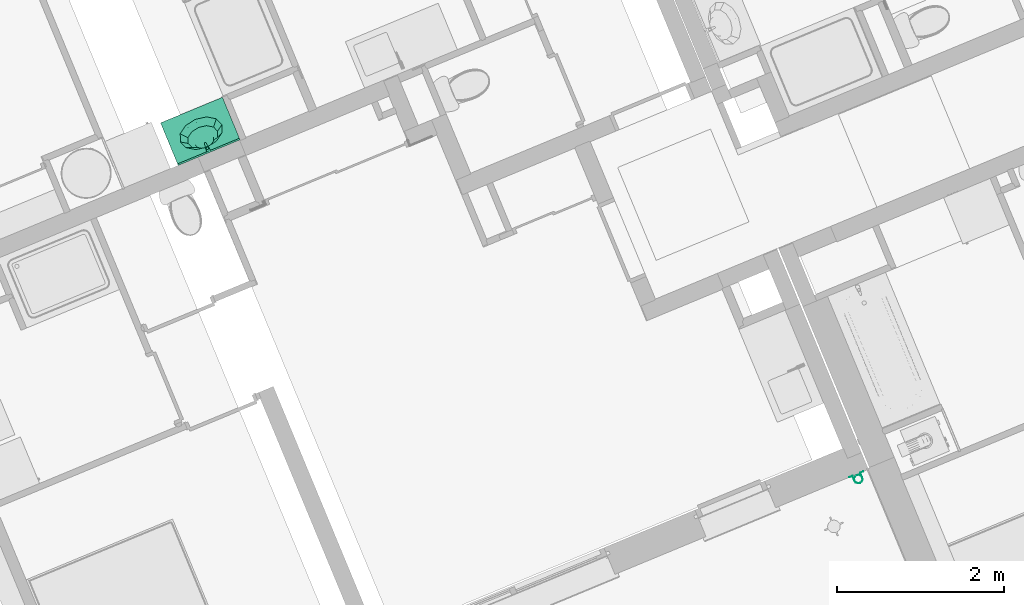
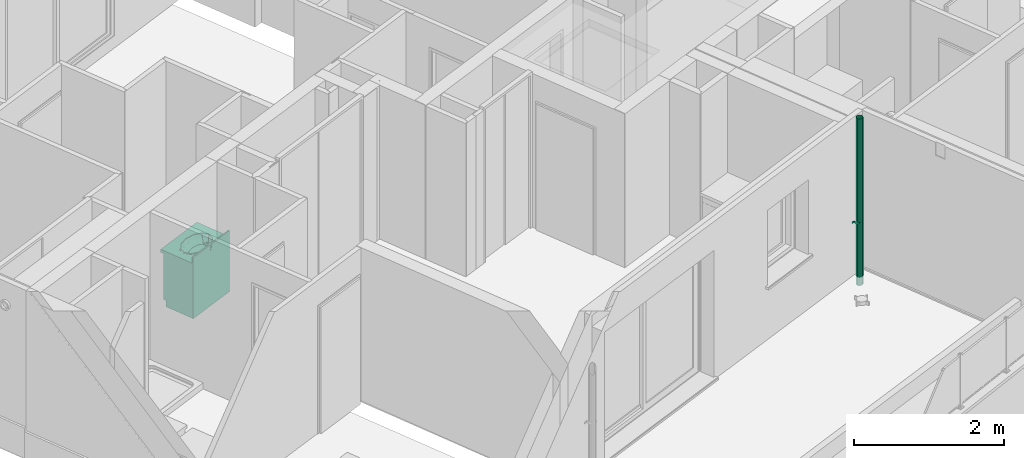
# One storey, part 83 of 119: 2 flow terminals.
"""IFC2X3 building model written with IfcOpenShell, lengths in metres."""

from ifc_helpers import new_model, entity, si_unit, converted_unit, derived_unit, money_unit, direction, frame, origin_with_axes, place, context, subcontext, project, spatial, open_shell, faceted_brep, surface_model, source, transform, mapped, type_object, element, save


model = new_model("IFC2X3")

# Units and contexts
model_context = context("Model", 3, precision=1e-05, world=origin_with_axes(), true_north=direction((0.0, 1.0)))
body_context = subcontext(model_context, "Body", "Model", "MODEL_VIEW")
ifc_project = project(units=[si_unit("LENGTHUNIT", "METRE"), si_unit("AREAUNIT", "SQUARE_METRE"), si_unit("VOLUMEUNIT", "CUBIC_METRE"), converted_unit("PLANEANGLEUNIT", "DEGREE", entity("IfcPlaneAngleMeasure", 0.0174532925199), si_unit("PLANEANGLEUNIT", "RADIAN"), dimensions=[0, 0, 0, 0, 0, 0, 0]), si_unit("SOLIDANGLEUNIT", "STERADIAN"), money_unit("EUR"), converted_unit("TIMEUNIT", "Year", entity("IfcTimeMeasure", 31556926.0), si_unit("TIMEUNIT", "SECOND"), dimensions=[0, 0, 1, 0, 0, 0, 0]), si_unit("MASSUNIT", "GRAM", prefix="KILO"), si_unit("THERMODYNAMICTEMPERATUREUNIT", "DEGREE_CELSIUS"), si_unit("LUMINOUSINTENSITYUNIT", "LUMEN"), si_unit("ENERGYUNIT", "JOULE", prefix="MEGA"), derived_unit("THERMALCONDUCTANCEUNIT", [(si_unit("POWERUNIT", "WATT"), 1), (si_unit("LENGTHUNIT", "METRE"), -1), (si_unit("THERMODYNAMICTEMPERATUREUNIT", "KELVIN"), -1)]), derived_unit("SPECIFICHEATCAPACITYUNIT", [(si_unit("ENERGYUNIT", "JOULE"), 1), (si_unit("MASSUNIT", "GRAM", prefix="KILO"), -1), (si_unit("THERMODYNAMICTEMPERATUREUNIT", "KELVIN"), -1)]), derived_unit("MASSDENSITYUNIT", [(si_unit("MASSUNIT", "GRAM", prefix="KILO"), 1), (si_unit("VOLUMEUNIT", "CUBIC_METRE"), -1)])], contexts=[model_context])

# Site, building, storey
site_placement = place(None, origin_with_axes())
site = spatial("IfcSite", under=ifc_project, at=site_placement, Name="Site", CompositionType="ELEMENT")
building_placement = place(site_placement, origin_with_axes())
building = spatial("IfcBuilding", under=site, at=building_placement, Name="Bâtiment", CompositionType="ELEMENT")
storey_placement = place(building_placement, origin_with_axes())
storey = spatial("IfcBuildingStorey", under=building, at=storey_placement, Name="Rez-de-chaussée", CompositionType="ELEMENT", Elevation=0.0)

# Flow terminals
sanitary_terminal_type = type_object("IfcSanitaryTerminalType", Name="Lavabo sur meuble 23", PredefinedType="NOTDEFINED")
shared_shape_1 = source(origin_with_axes(), body_context, "Body", "SurfaceModel", [
    faceted_brep([(0.0, 0.09, 0.0), (0.8, 0.09, 0.0), (0.8, 0.09, 0.1), (0.0, 0.09, 0.1), (0.0, 0.55, 0.0), (0.8, 0.55, 0.0), (0.8, 0.55, 0.1), (0.0, 0.55, 0.1)], [[[0, 1, 2, 3]], [[0, 4, 5, 1]], [[1, 5, 6, 2]], [[3, 2, 6, 7]], [[4, 0, 3, 7]], [[5, 4, 7, 6]]]),
    faceted_brep([(0.0, 0.07, 0.1), (0.02, 0.07, 0.1), (0.02, 0.07, 0.12), (0.0, 0.07, 0.12), (0.0, 0.55, 0.1), (0.02, 0.55, 0.1), (0.78, 0.55, 0.1), (0.8, 0.55, 0.1), (0.8, 0.07, 0.1), (0.78, 0.07, 0.1), (0.78, 0.07, 0.12), (0.8, 0.07, 0.12), (0.8, 0.55, 0.12), (0.78, 0.55, 0.12), (0.02, 0.55, 0.12), (0.0, 0.55, 0.12)], [[[0, 1, 2, 3]], [[0, 4, 5, 6, 7, 8, 9, 1]], [[1, 9, 10, 2]], [[3, 2, 10, 11, 12, 13, 14, 15]], [[4, 0, 3, 15]], [[5, 4, 15, 14]], [[6, 5, 14, 13]], [[7, 6, 13, 12]], [[8, 7, 12, 11]], [[9, 8, 11, 10]]]),
    faceted_brep([(0.0, 0.07, 0.12), (0.02, 0.07, 0.12), (0.02, 0.07, 0.85), (0.0, 0.07, 0.85), (0.0, 0.55, 0.12), (0.8, 0.55, 0.12), (0.8, 0.07, 0.12), (0.78, 0.07, 0.12), (0.78, 0.53, 0.12), (0.02, 0.53, 0.12), (0.02, 0.53, 0.85), (0.78, 0.53, 0.85), (0.78, 0.07, 0.85), (0.8, 0.07, 0.85), (0.8, 0.55, 0.85), (0.0, 0.55, 0.85)], [[[0, 1, 2, 3]], [[0, 4, 5, 6, 7, 8, 9, 1]], [[1, 9, 10, 2]], [[3, 2, 10, 11, 12, 13, 14, 15]], [[4, 0, 3, 15]], [[5, 4, 15, 14]], [[6, 5, 14, 13]], [[7, 6, 13, 12]], [[8, 7, 12, 11]], [[9, 8, 11, 10]]]),
    faceted_brep([(0.78, 0.07, 0.323333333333), (0.78, 0.53, 0.323333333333), (0.78, 0.53, 0.343333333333), (0.78, 0.07, 0.343333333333), (0.02, 0.07, 0.323333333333), (0.02, 0.53, 0.323333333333), (0.02, 0.53, 0.343333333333), (0.02, 0.07, 0.343333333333)], [[[0, 1, 2, 3]], [[0, 4, 5, 1]], [[1, 5, 6, 2]], [[3, 2, 6, 7]], [[4, 0, 3, 7]], [[5, 4, 7, 6]]]),
    faceted_brep([(0.78, 0.07, 0.566666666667), (0.78, 0.53, 0.566666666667), (0.78, 0.53, 0.586666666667), (0.78, 0.07, 0.586666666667), (0.02, 0.07, 0.566666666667), (0.02, 0.53, 0.566666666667), (0.02, 0.53, 0.586666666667), (0.02, 0.07, 0.586666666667)], [[[0, 1, 2, 3]], [[0, 4, 5, 1]], [[1, 5, 6, 2]], [[3, 2, 6, 7]], [[4, 0, 3, 7]], [[5, 4, 7, 6]]]),
    faceted_brep([(0.0, 0.55, 0.85), (0.8, 0.55, 0.85), (0.8, 0.0, 0.85), (0.0, 0.0, 0.85), (0.535, 0.144115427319, 0.85), (0.633826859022, 0.21, 0.85), (0.67, 0.3, 0.85), (0.633826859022, 0.39, 0.85), (0.535, 0.455884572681, 0.85), (0.4, 0.48, 0.85), (0.265, 0.455884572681, 0.85), (0.166173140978, 0.39, 0.85), (0.13, 0.3, 0.85), (0.166173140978, 0.21, 0.85), (0.265, 0.144115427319, 0.85), (0.4, 0.12, 0.85), (0.0, 0.55, 0.9), (0.8, 0.55, 0.9), (0.8, 0.0, 0.9), (0.0, 0.0, 0.9), (0.535, 0.144115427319, 0.9), (0.633826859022, 0.21, 0.9), (0.67, 0.3, 0.9), (0.633826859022, 0.39, 0.9), (0.535, 0.455884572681, 0.9), (0.4, 0.48, 0.9), (0.265, 0.455884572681, 0.9), (0.166173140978, 0.39, 0.9), (0.13, 0.3, 0.9), (0.166173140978, 0.21, 0.9), (0.265, 0.144115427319, 0.9), (0.4, 0.12, 0.9)], [[[0, 1, 2, 3], [4, 5, 6, 7, 8, 9, 10, 11, 12, 13, 14, 15]], [[0, 16, 17, 1]], [[1, 17, 18, 2]], [[2, 18, 19, 3]], [[3, 19, 16, 0]], [[20, 21, 5, 4]], [[21, 22, 6, 5]], [[22, 23, 7, 6]], [[23, 24, 8, 7]], [[24, 25, 9, 8]], [[25, 26, 10, 9]], [[26, 27, 11, 10]], [[27, 28, 12, 11]], [[28, 29, 13, 12]], [[29, 30, 14, 13]], [[30, 31, 15, 14]], [[31, 20, 4, 15]], [[18, 17, 16, 19], [24, 23, 22, 21, 20, 31, 30, 29, 28, 27, 26, 25]]]),
    faceted_brep([(0.0, 0.53, 0.9), (0.8, 0.53, 0.9), (0.8, 0.53, 1.0), (0.0, 0.53, 1.0), (0.0, 0.55, 0.9), (0.8, 0.55, 0.9), (0.8, 0.55, 1.0), (0.0, 0.55, 1.0)], [[[0, 1, 2, 3]], [[0, 4, 5, 1]], [[1, 5, 6, 2]], [[3, 2, 6, 7]], [[4, 0, 3, 7]], [[5, 4, 7, 6]]]),
    faceted_brep([(0.689, 0.3, 0.905), (0.689, 0.3, 0.9), (0.650281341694, 0.396691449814, 0.9), (0.650281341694, 0.396691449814, 0.905), (0.650281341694, 0.203308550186, 0.905), (0.650281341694, 0.203308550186, 0.9), (0.5445, 0.132525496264, 0.9), (0.4, 0.106617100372, 0.9), (0.2555, 0.132525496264, 0.9), (0.149718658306, 0.203308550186, 0.9), (0.111, 0.3, 0.9), (0.149718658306, 0.396691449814, 0.9), (0.2555, 0.467474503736, 0.9), (0.4, 0.493382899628, 0.9), (0.5445, 0.467474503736, 0.9), (0.669, 0.3, 0.9), (0.632960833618, 0.39, 0.9), (0.5345, 0.455884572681, 0.9), (0.4, 0.48, 0.9), (0.2655, 0.455884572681, 0.9), (0.167039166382, 0.39, 0.9), (0.131, 0.3, 0.9), (0.167039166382, 0.21, 0.9), (0.2655, 0.144115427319, 0.9), (0.4, 0.12, 0.9), (0.5345, 0.144115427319, 0.9), (0.632960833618, 0.21, 0.9), (0.5445, 0.467474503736, 0.905), (0.4, 0.493382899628, 0.905), (0.2555, 0.467474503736, 0.905), (0.149718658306, 0.396691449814, 0.905), (0.111, 0.3, 0.905), (0.149718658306, 0.203308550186, 0.905), (0.2555, 0.132525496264, 0.905), (0.4, 0.106617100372, 0.905), (0.5445, 0.132525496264, 0.905), (0.669, 0.3, 0.905), (0.632960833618, 0.21, 0.905), (0.5345, 0.144115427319, 0.905), (0.4, 0.12, 0.905), (0.2655, 0.144115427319, 0.905), (0.167039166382, 0.21, 0.905), (0.131, 0.3, 0.905), (0.167039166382, 0.39, 0.905), (0.2655, 0.455884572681, 0.905), (0.4, 0.48, 0.905), (0.5345, 0.455884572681, 0.905), (0.632960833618, 0.39, 0.905)], [[[0, 1, 2, 3]], [[4, 5, 1, 0]], [[1, 5, 6, 7, 8, 9, 10, 11, 12, 13, 14, 2], [15, 16, 17, 18, 19, 20, 21, 22, 23, 24, 25, 26]], [[3, 2, 14, 27]], [[0, 3, 27, 28, 29, 30, 31, 32, 33, 34, 35, 4], [36, 37, 38, 39, 40, 41, 42, 43, 44, 45, 46, 47]], [[35, 6, 5, 4]], [[34, 7, 6, 35]], [[33, 8, 7, 34]], [[32, 9, 8, 33]], [[31, 10, 9, 32]], [[30, 11, 10, 31]], [[29, 12, 11, 30]], [[28, 13, 12, 29]], [[27, 14, 13, 28]], [[47, 16, 15, 36]], [[46, 17, 16, 47]], [[45, 18, 17, 46]], [[44, 19, 18, 45]], [[43, 20, 19, 44]], [[42, 21, 20, 43]], [[41, 22, 21, 42]], [[40, 23, 22, 41]], [[39, 24, 23, 40]], [[38, 25, 24, 39]], [[37, 26, 25, 38]], [[36, 15, 26, 37]]]),
    surface_model("IfcShellBasedSurfaceModel", [(0.4, 0.48, 0.9), (0.4, 0.48, 0.848), (0.52105, 0.458296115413, 0.848), (0.5345, 0.455884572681, 0.9), (0.2655, 0.455884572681, 0.9), (0.27895, 0.458296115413, 0.848), (0.609664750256, 0.399, 0.848), (0.632960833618, 0.39, 0.9), (0.167039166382, 0.39, 0.9), (0.190335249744, 0.399, 0.848), (0.6421, 0.318, 0.848), (0.669, 0.3, 0.9), (0.131, 0.3, 0.9), (0.1579, 0.318, 0.848), (0.609664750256, 0.237, 0.848), (0.632960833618, 0.21, 0.9), (0.167039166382, 0.21, 0.9), (0.190335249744, 0.237, 0.848), (0.52105, 0.177703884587, 0.848), (0.5345, 0.144115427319, 0.9), (0.2655, 0.144115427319, 0.9), (0.27895, 0.177703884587, 0.848), (0.4, 0.156, 0.848), (0.4, 0.12, 0.9)], [open_shell([[[0, 1, 2, 3]], [[4, 5, 1, 0]], [[3, 2, 6, 7]], [[8, 9, 5, 4]], [[7, 6, 10, 11]], [[12, 13, 9, 8]], [[11, 10, 14, 15]], [[16, 17, 13, 12]], [[15, 14, 18, 19]], [[20, 21, 17, 16]], [[19, 18, 22, 23]], [[23, 22, 21, 20]]])]),
    surface_model("IfcShellBasedSurfaceModel", [(0.4, 0.48, 0.848), (0.4, 0.48, 0.796), (0.4956295, 0.462853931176, 0.796), (0.52105, 0.458296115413, 0.848), (0.27895, 0.458296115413, 0.848), (0.3043705, 0.462853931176, 0.796), (0.565635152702, 0.41601, 0.796), (0.609664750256, 0.399, 0.848), (0.190335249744, 0.399, 0.848), (0.234364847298, 0.41601, 0.796), (0.591259, 0.35202, 0.796), (0.6421, 0.318, 0.848), (0.1579, 0.318, 0.848), (0.208741, 0.35202, 0.796), (0.565635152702, 0.28803, 0.796), (0.609664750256, 0.237, 0.848), (0.190335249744, 0.237, 0.848), (0.234364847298, 0.28803, 0.796), (0.4956295, 0.241186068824, 0.796), (0.52105, 0.177703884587, 0.848), (0.27895, 0.177703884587, 0.848), (0.3043705, 0.241186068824, 0.796), (0.4, 0.22404, 0.796), (0.4, 0.156, 0.848)], [open_shell([[[0, 1, 2, 3]], [[4, 5, 1, 0]], [[3, 2, 6, 7]], [[8, 9, 5, 4]], [[7, 6, 10, 11]], [[12, 13, 9, 8]], [[11, 10, 14, 15]], [[16, 17, 13, 12]], [[15, 14, 18, 19]], [[20, 21, 17, 16]], [[19, 18, 22, 23]], [[23, 22, 21, 20]]])]),
    surface_model("IfcShellBasedSurfaceModel", [(0.4, 0.48, 0.796), (0.4, 0.48, 0.77), (0.460246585, 0.469197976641, 0.77), (0.4956295, 0.462853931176, 0.796), (0.3043705, 0.462853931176, 0.796), (0.339753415, 0.469197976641, 0.77), (0.504350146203, 0.4396863, 0.77), (0.565635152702, 0.41601, 0.796), (0.234364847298, 0.41601, 0.796), (0.295649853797, 0.4396863, 0.77), (0.52049317, 0.3993726, 0.77), (0.591259, 0.35202, 0.796), (0.208741, 0.35202, 0.796), (0.27950683, 0.3993726, 0.77), (0.504350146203, 0.3590589, 0.77), (0.565635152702, 0.28803, 0.796), (0.234364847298, 0.28803, 0.796), (0.295649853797, 0.3590589, 0.77), (0.460246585, 0.329547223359, 0.77), (0.4956295, 0.241186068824, 0.796), (0.3043705, 0.241186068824, 0.796), (0.339753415, 0.329547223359, 0.77), (0.4, 0.3187452, 0.77), (0.4, 0.22404, 0.796)], [open_shell([[[0, 1, 2, 3]], [[4, 5, 1, 0]], [[3, 2, 6, 7]], [[8, 9, 5, 4]], [[7, 6, 10, 11]], [[12, 13, 9, 8]], [[11, 10, 14, 15]], [[16, 17, 13, 12]], [[15, 14, 18, 19]], [[20, 21, 17, 16]], [[19, 18, 22, 23]], [[23, 22, 21, 20]]])]),
    surface_model("IfcShellBasedSurfaceModel", [(0.4, 0.48, 0.77), (0.415, 0.425353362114, 0.763), (0.460246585, 0.469197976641, 0.77), (0.4, 0.4293726, 0.763), (0.425980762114, 0.4143726, 0.763), (0.339753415, 0.469197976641, 0.77), (0.504350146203, 0.4396863, 0.77), (0.385, 0.425353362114, 0.763), (0.43, 0.3993726, 0.763), (0.295649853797, 0.4396863, 0.77), (0.52049317, 0.3993726, 0.77), (0.374019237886, 0.4143726, 0.763), (0.425980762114, 0.3843726, 0.763), (0.27950683, 0.3993726, 0.77), (0.504350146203, 0.3590589, 0.77), (0.37, 0.3993726, 0.763), (0.415, 0.373391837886, 0.763), (0.295649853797, 0.3590589, 0.77), (0.460246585, 0.329547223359, 0.77), (0.374019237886, 0.3843726, 0.763), (0.4, 0.3693726, 0.763), (0.339753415, 0.329547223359, 0.77), (0.4, 0.3187452, 0.77), (0.385, 0.373391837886, 0.763)], [open_shell([[[0, 1, 2]], [[0, 3, 1]], [[2, 1, 4]], [[5, 3, 0]], [[2, 4, 6]], [[5, 7, 3]], [[6, 4, 8]], [[9, 7, 5]], [[6, 8, 10]], [[9, 11, 7]], [[10, 8, 12]], [[13, 11, 9]], [[10, 12, 14]], [[13, 15, 11]], [[14, 12, 16]], [[17, 15, 13]], [[14, 16, 18]], [[17, 19, 15]], [[18, 16, 20]], [[21, 19, 17]], [[18, 20, 22]], [[21, 23, 19]], [[22, 20, 23]], [[22, 23, 21]]])]),
    surface_model("IfcShellBasedSurfaceModel", [(0.43, 0.3993726, 0.763), (0.43, 0.3993726, 0.758), (0.425980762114, 0.4143726, 0.758), (0.425980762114, 0.4143726, 0.763), (0.425980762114, 0.3843726, 0.763), (0.425980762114, 0.3843726, 0.758), (0.415, 0.373391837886, 0.758), (0.4, 0.3693726, 0.758), (0.385, 0.373391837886, 0.758), (0.374019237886, 0.3843726, 0.758), (0.37, 0.3993726, 0.758), (0.374019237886, 0.4143726, 0.758), (0.385, 0.425353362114, 0.758), (0.4, 0.4293726, 0.758), (0.415, 0.425353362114, 0.758), (0.415, 0.425353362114, 0.763), (0.415, 0.373391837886, 0.763), (0.4, 0.3693726, 0.763), (0.385, 0.373391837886, 0.763), (0.374019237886, 0.3843726, 0.763), (0.37, 0.3993726, 0.763), (0.374019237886, 0.4143726, 0.763), (0.385, 0.425353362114, 0.763), (0.4, 0.4293726, 0.763)], [open_shell([[[0, 1, 2, 3]], [[4, 5, 1, 0]], [[1, 5, 6, 7, 8, 9, 10, 11, 12, 13, 14, 2]], [[3, 2, 14, 15]], [[16, 6, 5, 4]], [[17, 7, 6, 16]], [[18, 8, 7, 17]], [[19, 9, 8, 18]], [[20, 10, 9, 19]], [[21, 11, 10, 20]], [[22, 12, 11, 21]], [[23, 13, 12, 22]], [[15, 14, 13, 23]]])]),
    faceted_brep([(0.4125, 0.554150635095, 0.9), (0.4, 0.5575, 0.9), (0.4, 0.553701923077, 0.975961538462), (0.410587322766, 0.550837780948, 0.976507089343), (0.421650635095, 0.545, 0.9), (0.425, 0.5325, 0.9), (0.421650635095, 0.52, 0.9), (0.4125, 0.510849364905, 0.9), (0.4, 0.5075, 0.9), (0.3875, 0.510849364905, 0.9), (0.378349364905, 0.52, 0.9), (0.375, 0.5325, 0.9), (0.378349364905, 0.545, 0.9), (0.3875, 0.554150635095, 0.9), (0.389412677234, 0.550837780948, 0.976507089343), (0.381726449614, 0.543050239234, 0.977990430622), (0.379, 0.5325, 0.98), (0.381899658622, 0.522049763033, 0.981990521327), (0.389585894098, 0.514462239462, 0.983435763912), (0.4, 0.511698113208, 0.983962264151), (0.410414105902, 0.514462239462, 0.983435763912), (0.418100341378, 0.522049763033, 0.981990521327), (0.421, 0.5325, 0.98), (0.418273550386, 0.543050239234, 0.977990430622)], [[[0, 1, 2, 3]], [[0, 4, 5, 6, 7, 8, 9, 10, 11, 12, 13, 1]], [[1, 13, 14, 2]], [[3, 2, 14, 15, 16, 17, 18, 19, 20, 21, 22, 23]], [[4, 0, 3, 23]], [[5, 4, 23, 22]], [[6, 5, 22, 21]], [[7, 6, 21, 20]], [[8, 7, 20, 19]], [[9, 8, 19, 18]], [[10, 9, 18, 17]], [[11, 10, 17, 16]], [[12, 11, 16, 15]], [[13, 12, 15, 14]]]),
    faceted_brep([(0.409, 0.4295, 0.935), (0.407794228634, 0.434, 0.935), (0.407794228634, 0.434, 0.945), (0.409, 0.4295, 0.945), (0.407794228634, 0.425, 0.935), (0.4045, 0.421705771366, 0.935), (0.4, 0.4205, 0.935), (0.3955, 0.421705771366, 0.935), (0.392205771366, 0.425, 0.935), (0.391, 0.4295, 0.935), (0.392205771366, 0.434, 0.935), (0.3955, 0.437294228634, 0.935), (0.4, 0.4385, 0.935), (0.4045, 0.437294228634, 0.935), (0.4045, 0.437294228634, 0.945), (0.4, 0.4385, 0.945), (0.3955, 0.437294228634, 0.945), (0.392205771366, 0.434, 0.945), (0.391, 0.4295, 0.945), (0.392205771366, 0.425, 0.945), (0.3955, 0.421705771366, 0.945), (0.4, 0.4205, 0.945), (0.4045, 0.421705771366, 0.945), (0.407794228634, 0.425, 0.945)], [[[0, 1, 2, 3]], [[0, 4, 5, 6, 7, 8, 9, 10, 11, 12, 13, 1]], [[1, 13, 14, 2]], [[3, 2, 14, 15, 16, 17, 18, 19, 20, 21, 22, 23]], [[4, 0, 3, 23]], [[5, 4, 23, 22]], [[6, 5, 22, 21]], [[7, 6, 21, 20]], [[8, 7, 20, 19]], [[9, 8, 19, 18]], [[10, 9, 18, 17]], [[11, 10, 17, 16]], [[12, 11, 16, 15]], [[13, 12, 15, 14]]]),
    faceted_brep([(0.387128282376, 0.552756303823, 0.96), (0.378272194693, 0.54269320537, 0.96), (0.3761946, 0.5294501, 0.96), (0.389088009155, 0.428111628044, 0.96), (0.390971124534, 0.423216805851, 0.96), (0.394906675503, 0.419750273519, 0.96), (0.400000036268, 0.41850003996, 0.96), (0.405093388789, 0.419750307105, 0.96), (0.409028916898, 0.423216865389, 0.96), (0.410912, 0.4281117, 0.96), (0.423805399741, 0.529450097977, 0.96), (0.421727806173, 0.542693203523, 0.96), (0.412871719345, 0.552756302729, 0.96), (0.40000000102, 0.556499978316, 0.96), (0.411, 0.551552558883, 0.96), (0.419052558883, 0.5435, 0.96), (0.422, 0.5325, 0.96), (0.419052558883, 0.5215, 0.96), (0.411, 0.513447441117, 0.96), (0.4, 0.5105, 0.96), (0.389, 0.513447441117, 0.96), (0.380947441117, 0.5215, 0.96), (0.378, 0.5325, 0.96), (0.380947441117, 0.5435, 0.96), (0.389, 0.551552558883, 0.96), (0.4, 0.5545, 0.96), (0.378272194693, 0.54269320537, 0.945), (0.387128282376, 0.552756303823, 0.945), (0.3761946, 0.5294501, 0.945), (0.389088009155, 0.428111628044, 0.945), (0.390971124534, 0.423216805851, 0.945), (0.394906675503, 0.419750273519, 0.945), (0.400000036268, 0.41850003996, 0.945), (0.405093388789, 0.419750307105, 0.945), (0.409028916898, 0.423216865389, 0.945), (0.410912, 0.4281117, 0.945), (0.423805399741, 0.529450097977, 0.945), (0.421727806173, 0.542693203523, 0.945), (0.412871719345, 0.552756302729, 0.945), (0.40000000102, 0.556499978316, 0.945), (0.411375, 0.552202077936, 0.945), (0.419702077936, 0.543875, 0.945), (0.42275, 0.5325, 0.945), (0.419702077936, 0.521125, 0.945), (0.411375, 0.512797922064, 0.945), (0.4, 0.50975, 0.945), (0.388625, 0.512797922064, 0.945), (0.380297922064, 0.521125, 0.945), (0.37725, 0.5325, 0.945), (0.380297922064, 0.543875, 0.945), (0.388625, 0.552202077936, 0.945), (0.4, 0.55525, 0.945)], [[[0, 1, 2, 3, 4, 5, 6, 7, 8, 9, 10, 11, 12, 13], [14, 15, 16, 17, 18, 19, 20, 21, 22, 23, 24, 25]], [[26, 1, 0, 27]], [[28, 2, 1, 26]], [[29, 3, 2, 28]], [[30, 4, 3, 29]], [[31, 5, 4, 30]], [[32, 6, 5, 31]], [[33, 7, 6, 32]], [[34, 8, 7, 33]], [[35, 9, 8, 34]], [[36, 10, 9, 35]], [[37, 11, 10, 36]], [[38, 12, 11, 37]], [[39, 13, 12, 38]], [[27, 0, 13, 39]], [[40, 41, 15, 14]], [[41, 42, 16, 15]], [[42, 43, 17, 16]], [[43, 44, 18, 17]], [[44, 45, 19, 18]], [[20, 19, 45, 46]], [[21, 20, 46, 47]], [[22, 21, 47, 48]], [[23, 22, 48, 49]], [[24, 23, 49, 50]], [[50, 51, 25, 24]], [[51, 40, 14, 25]], [[32, 31, 30, 29, 28, 26, 27, 39, 38, 37, 36, 35, 34, 33], [44, 43, 42, 41, 40, 51, 50, 49, 48, 47, 46, 45]]]),
    faceted_brep([(0.423893, 0.53080743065, 0.980322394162), (0.421296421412, 0.543274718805, 0.977947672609), (0.421296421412, 0.544023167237, 0.981877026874), (0.423893, 0.531555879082, 0.984251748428), (0.420945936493, 0.490663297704, 0.987968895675), (0.417663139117, 0.480985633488, 0.989812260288), (0.410061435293, 0.474036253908, 0.991135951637), (0.399999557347, 0.47151438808, 0.991616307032), (0.389937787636, 0.474036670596, 0.991135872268), (0.382336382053, 0.480986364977, 0.989812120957), (0.379054, 0.490664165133, 0.987968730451), (0.376106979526, 0.530807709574, 0.980322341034), (0.378703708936, 0.543274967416, 0.977947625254), (0.38752831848, 0.552591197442, 0.976173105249), (0.400000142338, 0.556031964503, 0.975517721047), (0.41247192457, 0.552591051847, 0.976173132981), (0.414, 0.506959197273, 0.984864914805), (0.386, 0.506959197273, 0.984864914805), (0.386, 0.492143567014, 0.987686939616), (0.387875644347, 0.485267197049, 0.988996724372), (0.393, 0.480233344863, 0.989955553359), (0.4, 0.478390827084, 0.990306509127), (0.407, 0.480233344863, 0.989955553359), (0.412124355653, 0.485267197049, 0.988996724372), (0.414, 0.492143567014, 0.987686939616), (0.41247192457, 0.553339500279, 0.980102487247), (0.400000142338, 0.556780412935, 0.979447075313), (0.38752831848, 0.553339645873, 0.980102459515), (0.378703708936, 0.544023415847, 0.98187697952), (0.376106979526, 0.531556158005, 0.984251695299), (0.379054, 0.491412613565, 0.991898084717), (0.382336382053, 0.481734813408, 0.993741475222), (0.389937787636, 0.474785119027, 0.995065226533), (0.399999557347, 0.472262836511, 0.995545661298), (0.410061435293, 0.47478470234, 0.995065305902), (0.417663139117, 0.48173408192, 0.993741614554), (0.420945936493, 0.491411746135, 0.991898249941), (0.414, 0.507707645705, 0.988794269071), (0.414, 0.492892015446, 0.991616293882), (0.412124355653, 0.486015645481, 0.992926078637), (0.407, 0.480981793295, 0.993884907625), (0.4, 0.479139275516, 0.994235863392), (0.393, 0.480981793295, 0.993884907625), (0.387875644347, 0.486015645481, 0.992926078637), (0.386, 0.492892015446, 0.991616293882), (0.386, 0.507707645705, 0.988794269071)], [[[0, 1, 2, 3]], [[0, 4, 5, 6, 7, 8, 9, 10, 11, 12, 13, 14, 15, 1], [16, 17, 18, 19, 20, 21, 22, 23, 24]], [[1, 15, 25, 2]], [[3, 2, 25, 26, 27, 28, 29, 30, 31, 32, 33, 34, 35, 36], [37, 38, 39, 40, 41, 42, 43, 44, 45]], [[4, 0, 3, 36]], [[5, 4, 36, 35]], [[6, 5, 35, 34]], [[7, 6, 34, 33]], [[8, 7, 33, 32]], [[9, 8, 32, 31]], [[10, 9, 31, 30]], [[11, 10, 30, 29]], [[12, 11, 29, 28]], [[13, 12, 28, 27]], [[14, 13, 27, 26]], [[15, 14, 26, 25]], [[17, 16, 37, 45]], [[18, 17, 45, 44]], [[19, 18, 44, 43]], [[20, 19, 43, 42]], [[21, 20, 42, 41]], [[22, 21, 41, 40]], [[23, 22, 40, 39]], [[24, 23, 39, 38]], [[16, 24, 38, 37]]]),
    faceted_brep([(0.0015, 0.07, 0.1015), (0.3985, 0.07, 0.1015), (0.3985, 0.05, 0.1015), (0.0015, 0.05, 0.1015), (0.0015, 0.07, 0.8485), (0.3985, 0.07, 0.8485), (0.3985, 0.05, 0.8485), (0.0015, 0.05, 0.8485)], [[[0, 1, 2, 3]], [[0, 4, 5, 1]], [[1, 5, 6, 2]], [[3, 2, 6, 7]], [[4, 0, 3, 7]], [[5, 4, 7, 6]]]),
    faceted_brep([(0.358892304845, 0.05, 0.7855), (0.3545, 0.05, 0.781107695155), (0.3485, 0.05, 0.7795), (0.3425, 0.05, 0.781107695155), (0.338107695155, 0.05, 0.7855), (0.3365, 0.05, 0.7915), (0.338107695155, 0.05, 0.7975), (0.3425, 0.05, 0.801892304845), (0.3485, 0.05, 0.8035), (0.3545, 0.05, 0.801892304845), (0.358892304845, 0.05, 0.7975), (0.3605, 0.05, 0.7915), (0.358892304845, 0.025, 0.7855), (0.3545, 0.025, 0.781107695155), (0.3485, 0.025, 0.7795), (0.3425, 0.025, 0.781107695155), (0.338107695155, 0.025, 0.7855), (0.3365, 0.025, 0.7915), (0.338107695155, 0.025, 0.7975), (0.3425, 0.025, 0.801892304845), (0.3485, 0.025, 0.8035), (0.3545, 0.025, 0.801892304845), (0.358892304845, 0.025, 0.7975), (0.3605, 0.025, 0.7915)], [[[0, 1, 2, 3, 4, 5, 6, 7, 8, 9, 10, 11]], [[1, 0, 12, 13]], [[2, 1, 13, 14]], [[3, 2, 14, 15]], [[4, 3, 15, 16]], [[5, 4, 16, 17]], [[6, 5, 17, 18]], [[7, 6, 18, 19]], [[8, 7, 19, 20]], [[9, 8, 20, 21]], [[10, 9, 21, 22]], [[11, 10, 22, 23]], [[0, 11, 23, 12]], [[12, 23, 22, 21, 20, 19, 18, 17, 16, 15, 14, 13]]]),
    faceted_brep([(0.7985, 0.07, 0.1015), (0.7985, 0.05, 0.1015), (0.4015, 0.05, 0.1015), (0.4015, 0.07, 0.1015), (0.7985, 0.07, 0.8485), (0.7985, 0.05, 0.8485), (0.4015, 0.05, 0.8485), (0.4015, 0.07, 0.8485)], [[[0, 1, 2, 3]], [[4, 5, 1, 0]], [[1, 5, 6, 2]], [[3, 2, 6, 7]], [[0, 3, 7, 4]], [[7, 6, 5, 4]]]),
    faceted_brep([(0.441107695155, 0.05, 0.7855), (0.4395, 0.05, 0.7915), (0.441107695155, 0.05, 0.7975), (0.4455, 0.05, 0.801892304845), (0.4515, 0.05, 0.8035), (0.4575, 0.05, 0.801892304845), (0.461892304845, 0.05, 0.7975), (0.4635, 0.05, 0.7915), (0.461892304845, 0.05, 0.7855), (0.4575, 0.05, 0.781107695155), (0.4515, 0.05, 0.7795), (0.4455, 0.05, 0.781107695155), (0.441107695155, 0.025, 0.7855), (0.4395, 0.025, 0.7915), (0.441107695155, 0.025, 0.7975), (0.4455, 0.025, 0.801892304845), (0.4515, 0.025, 0.8035), (0.4575, 0.025, 0.801892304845), (0.461892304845, 0.025, 0.7975), (0.4635, 0.025, 0.7915), (0.461892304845, 0.025, 0.7855), (0.4575, 0.025, 0.781107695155), (0.4515, 0.025, 0.7795), (0.4455, 0.025, 0.781107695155)], [[[0, 1, 2, 3, 4, 5, 6, 7, 8, 9, 10, 11]], [[0, 12, 13, 1]], [[1, 13, 14, 2]], [[2, 14, 15, 3]], [[3, 15, 16, 4]], [[4, 16, 17, 5]], [[5, 17, 18, 6]], [[6, 18, 19, 7]], [[7, 19, 20, 8]], [[8, 20, 21, 9]], [[9, 21, 22, 10]], [[10, 22, 23, 11]], [[11, 23, 12, 0]], [[12, 23, 22, 21, 20, 19, 18, 17, 16, 15, 14, 13]]]),
])
flow_terminal_1_placement = place(storey_placement, frame((-29.3284760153, -20.2613277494, 0.0), z_axis=(0.0, 0.0, 1.0), x_axis=(-0.923701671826, -0.383112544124, 0.0)))
element("IfcFlowTerminal", 1, at=flow_terminal_1_placement, inside=storey, type_object=sanitary_terminal_type, Name="MOB-002", ObjectType="SANITARY_TERMINAL", context=body_context, shape_type="MappedRepresentation", body=[
    mapped(shared_shape_1, transform((0.0, 0.0, 0.0))),
])
waste_terminal_type = type_object("IfcWasteTerminalType", Name="Tuyau descente 23", PredefinedType="GULLYTRAP")
shared_shape_2 = source(origin_with_axes(), body_context, "Body", "SurfaceModel", [
    surface_model("IfcShellBasedSurfaceModel", [(0.05, -0.0125, 2.7222918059), (0.0433012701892, -0.0375, 2.7222918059), (0.0433012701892, -0.0375, 0.0), (0.05, -0.0125, 0.0), (0.025, -0.0558012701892, 2.7222918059), (0.025, -0.0558012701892, 0.0), (0.0433012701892, 0.0125, 2.7222918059), (0.0433012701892, 0.0125, 0.0), (0.0, -0.0625, 2.7222918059), (0.0, -0.0625, 0.0), (0.025, 0.0308012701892, 2.7222918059), (0.025, 0.0308012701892, 0.0), (-0.025, -0.0558012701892, 2.7222918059), (-0.025, -0.0558012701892, 0.0), (0.0, 0.0375, 2.7222918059), (0.0, 0.0375, 0.0), (-0.0433012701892, -0.0375, 2.7222918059), (-0.0433012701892, -0.0375, 0.0), (-0.025, 0.0308012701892, 2.7222918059), (-0.025, 0.0308012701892, 0.0), (-0.05, -0.0125, 2.7222918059), (-0.05, -0.0125, 0.0), (-0.0433012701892, 0.0125, 2.7222918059), (-0.0433012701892, 0.0125, 0.0)], [open_shell([[[0, 1, 2, 3]], [[1, 4, 5, 2]], [[6, 0, 3, 7]], [[4, 8, 9, 5]], [[10, 6, 7, 11]], [[8, 12, 13, 9]], [[14, 10, 11, 15]], [[12, 16, 17, 13]], [[18, 14, 15, 19]], [[16, 20, 21, 17]], [[22, 18, 19, 23]], [[20, 22, 23, 21]]])]),
    faceted_brep([(-0.09, 0.0479, 1.0), (-0.052, 0.0479, 1.0), (-0.052, 0.0479, 1.03), (-0.09, 0.0479, 1.03), (-0.09, 0.0499, 1.0), (-0.0502, 0.0499, 1.0), (-0.0502, -0.0126, 1.0), (-0.04347447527, -0.0377, 1.0), (-0.0251, -0.05607447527, 1.0), (0.0, -0.0628, 1.0), (0.0251, -0.05607447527, 1.0), (0.04347447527, -0.0377, 1.0), (0.0502, -0.0126, 1.0), (0.0502, 0.0499, 1.0), (0.09, 0.0499, 1.0), (0.09, 0.0479, 1.0), (0.052, 0.0479, 1.0), (0.052, -0.0126, 1.0), (0.0450333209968, -0.0386, 1.0), (0.026, -0.0576333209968, 1.0), (0.0, -0.0646, 1.0), (-0.026, -0.0576333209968, 1.0), (-0.0450333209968, -0.0386, 1.0), (-0.052, -0.0126, 1.0), (-0.052, -0.0126, 1.03), (-0.0450333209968, -0.0386, 1.03), (-0.026, -0.0576333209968, 1.03), (0.0, -0.0646, 1.03), (0.026, -0.0576333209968, 1.03), (0.0450333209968, -0.0386, 1.03), (0.052, -0.0126, 1.03), (0.052, 0.0479, 1.03), (0.09, 0.0479, 1.03), (0.09, 0.0499, 1.03), (0.0502, 0.0499, 1.03), (0.0502, -0.0126, 1.03), (0.04347447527, -0.0377, 1.03), (0.0251, -0.05607447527, 1.03), (0.0, -0.0628, 1.03), (-0.0251, -0.05607447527, 1.03), (-0.04347447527, -0.0377, 1.03), (-0.0502, -0.0126, 1.03), (-0.0502, 0.0499, 1.03), (-0.09, 0.0499, 1.03)], [[[0, 1, 2, 3]], [[0, 4, 5, 6, 7, 8, 9, 10, 11, 12, 13, 14, 15, 16, 17, 18, 19, 20, 21, 22, 23, 1]], [[1, 23, 24, 2]], [[3, 2, 24, 25, 26, 27, 28, 29, 30, 31, 32, 33, 34, 35, 36, 37, 38, 39, 40, 41, 42, 43]], [[4, 0, 3, 43]], [[5, 4, 43, 42]], [[6, 5, 42, 41]], [[7, 6, 41, 40]], [[8, 7, 40, 39]], [[9, 8, 39, 38]], [[10, 9, 38, 37]], [[11, 10, 37, 36]], [[12, 11, 36, 35]], [[13, 12, 35, 34]], [[14, 13, 34, 33]], [[15, 14, 33, 32]], [[16, 15, 32, 31]], [[17, 16, 31, 30]], [[18, 17, 30, 29]], [[19, 18, 29, 28]], [[20, 19, 28, 27]], [[21, 20, 27, 26]], [[22, 21, 26, 25]], [[23, 22, 25, 24]]]),
])
flow_terminal_2_placement = place(storey_placement, frame((-21.7374415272, -24.8104731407, 0.0), z_axis=(0.0, 0.0, 1.0), x_axis=(0.923701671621, 0.383112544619, 0.0)))
element("IfcFlowTerminal", 2, at=flow_terminal_2_placement, inside=storey, type_object=waste_terminal_type, Name="MOB-006", context=body_context, shape_type="MappedRepresentation", body=[
    mapped(shared_shape_2, transform((0.0, 0.0, 0.0))),
])

save(model, "model.ifc")
